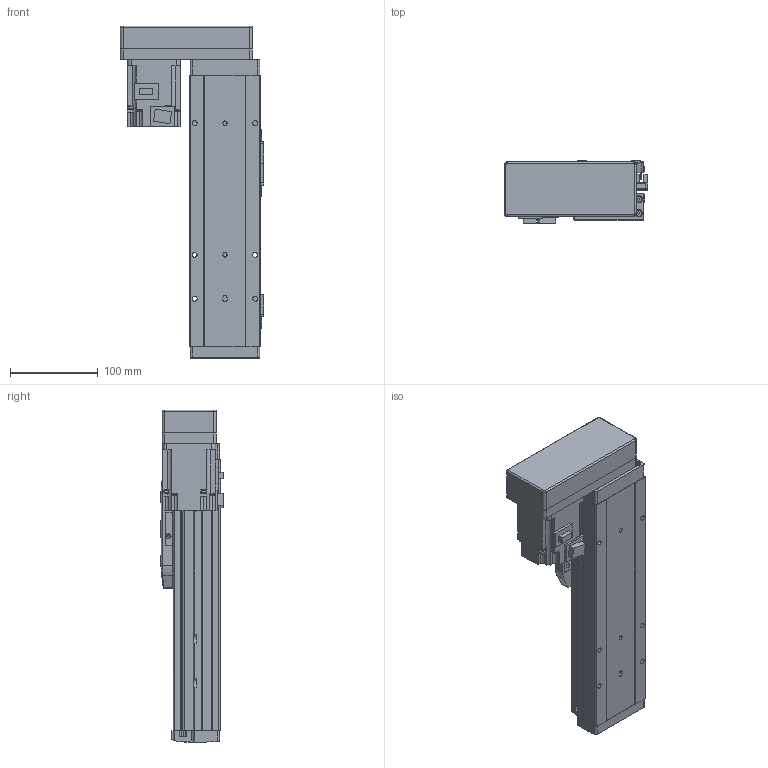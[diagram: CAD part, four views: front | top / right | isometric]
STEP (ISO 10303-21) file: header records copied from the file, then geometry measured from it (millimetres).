
FILE_DESCRIPTION (( 'STEP AP214' ), '1' );
FILE_NAME ('GSH8-150-BR-M20-1.step', '2025-01-07T06:09:52', ( '' ), ( '' ), 'SwSTEP 2.0', 'SolidWorks 2012', '' );
FILE_SCHEMA (( 'AUTOMOTIVE_DESIGN' ));
Length unit declared in the file: millimetre
Products named in the file (5): GSH8-GY-004; GSH8-150-BR-M20-1; GSH8-BL-011-150-M20; HG-KR23_200W_Motor; GSH8-BL-008
Assembly tree (4 placements, depth 2):
  GSH8-150-BR-M20-1
    GSH8-BL-011-150-M20
    GSH8-GY-004
    GSH8-BL-008
    HG-KR23_200W_Motor
Bounding box: 163 x 71.3 x 378.2 mm (x, y, z)
Volume: 1409375.8 mm3; surface area: 296133.2 mm2
Topology: 4 solids, 8 shells, 1082 faces, 2822 edges, 1813 vertices
Faces by surface type: plane 618, cylinder 368, torus 42, cone 26, bspline 24, sphere 4
Entity records: 42502 total; most frequent: CARTESIAN_POINT 9666, DIRECTION 5726, ORIENTED_EDGE 5628, EDGE_CURVE 2814, AXIS2_PLACEMENT_3D 1925, LINE 1876, VECTOR 1876, VERTEX_POINT 1809
